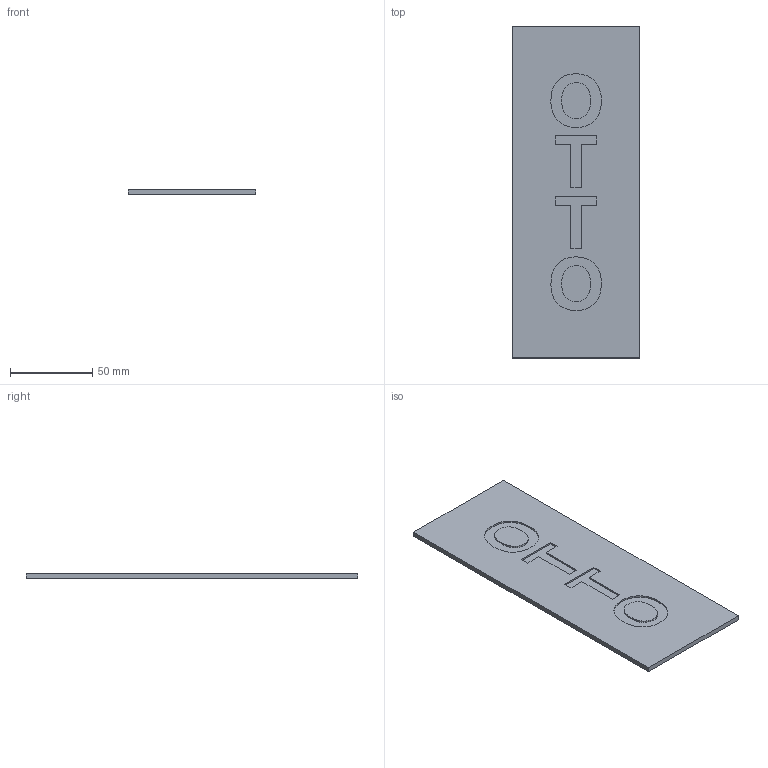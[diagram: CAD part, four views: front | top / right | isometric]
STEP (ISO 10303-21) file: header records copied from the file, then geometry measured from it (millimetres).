
FILE_DESCRIPTION(/* description */ (''),/* implementation_level */ '2;1');
FILE_NAME(/* name */ '/Users/davidflorian/Library/Mobile Documents/com~apple~CloudDocs/Vanderbilt/Papers/OTTO/Supplemental Material/3D-Printable-Components-STEP-Files/Pipette-Housing-Face-Plate.step',/* time_stamp */ '2020-06-30T22:46:19-05:00',/* author */ (''),/* organization */ (''),/* preprocessor_version */ 'ST-DEVELOPER v18.1',/* originating_system */ 'Autodesk Translation Framework v9.3.0.1241',/* authorisation */ '');
FILE_SCHEMA (('AUTOMOTIVE_DESIGN { 1 0 10303 214 3 1 1 }'));
Length unit declared in the file: millimetre
Products named in the file (1): OTTO-Face-Plate
Bounding box: 77.15 x 201.5 x 3 mm (x, y, z)
Volume: 45046.9 mm3; surface area: 33318.8 mm2
Topology: 1 solids, 1 shells, 49 faces, 123 edges, 82 vertices
Faces by surface type: plane 28, bspline 21
Entity records: 1750 total; most frequent: CARTESIAN_POINT 672, ORIENTED_EDGE 246, DIRECTION 147, EDGE_CURVE 123, VERTEX_POINT 82, LINE 81, VECTOR 81, EDGE_LOOP 55
